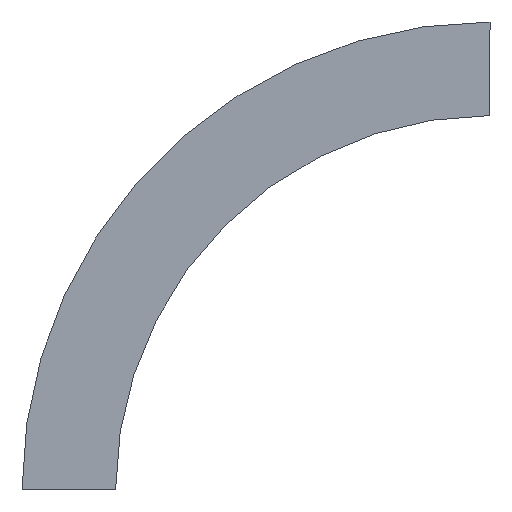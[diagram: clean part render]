
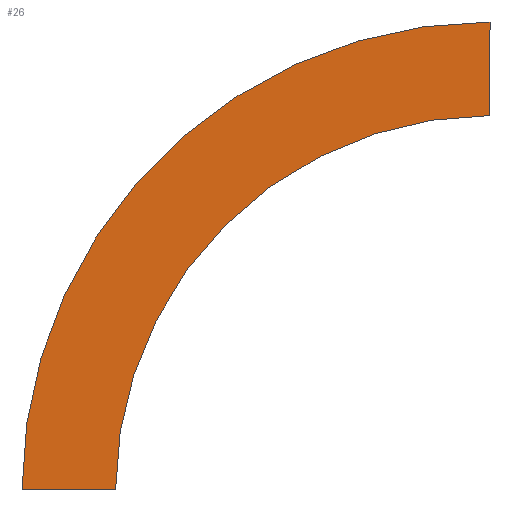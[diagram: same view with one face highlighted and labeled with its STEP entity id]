
A CAD part, left-side view. The second image highlights one B-rep face of the part: STEP entity #26.
In plain terms, the highlighted planar face has unit normal (-1, 0, 0) as drawn and (1, 0, 0) by its records, which use the part's own axes.
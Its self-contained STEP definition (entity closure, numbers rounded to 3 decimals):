
#16 = CIRCLE ( 'NONE', #89, 300. ) ;
#25 = CARTESIAN_POINT ( 'NONE',  ( 0., 0., 0. ) ) ;
#26 = ADVANCED_FACE ( 'NONE', ( #567 ), #209, .T. ) ;
#34 = DIRECTION ( 'NONE',  ( 0., 1., 0. ) ) ;
#44 = DIRECTION ( 'NONE',  ( 0., 1., 0. ) ) ;
#61 = EDGE_LOOP ( 'NONE', ( #500, #192, #82, #201 ) ) ;
#68 = DIRECTION ( 'NONE',  ( 0., 1., 0. ) ) ;
#76 = LINE ( 'NONE', #261, #156 ) ;
#82 = ORIENTED_EDGE ( 'NONE', *, *, #323, .F. ) ;
#89 = AXIS2_PLACEMENT_3D ( 'NONE', #539, #441, #34 ) ;
#94 = CARTESIAN_POINT ( 'NONE',  ( 0., -300., 375. ) ) ;
#98 = EDGE_CURVE ( 'NONE', #519, #377, #382, .T. ) ;
#109 = AXIS2_PLACEMENT_3D ( 'NONE', #25, #568, #565 ) ;
#112 = AXIS2_PLACEMENT_3D ( 'NONE', #247, #147, #44 ) ;
#147 = DIRECTION ( 'NONE',  ( 1., 0., 0. ) ) ;
#156 = VECTOR ( 'NONE', #175, 1000. ) ;
#175 = DIRECTION ( 'NONE',  ( 0., 0., 1. ) ) ;
#192 = ORIENTED_EDGE ( 'NONE', *, *, #302, .F. ) ;
#201 = ORIENTED_EDGE ( 'NONE', *, *, #98, .T. ) ;
#207 = EDGE_CURVE ( 'NONE', #377, #246, #387, .T. ) ;
#209 = PLANE ( 'NONE',  #109 ) ;
#246 = VERTEX_POINT ( 'NONE', #94 ) ;
#247 = CARTESIAN_POINT ( 'NONE',  ( 0., -300., 0. ) ) ;
#259 = VECTOR ( 'NONE', #68, 1000. ) ;
#261 = CARTESIAN_POINT ( 'NONE',  ( 0., -300., 300. ) ) ;
#302 = EDGE_CURVE ( 'NONE', #400, #246, #76, .T. ) ;
#323 = EDGE_CURVE ( 'NONE', #519, #400, #16, .T. ) ;
#340 = CARTESIAN_POINT ( 'NONE',  ( 0., 0., 0. ) ) ;
#377 = VERTEX_POINT ( 'NONE', #449 ) ;
#382 = LINE ( 'NONE', #340, #259 ) ;
#387 = CIRCLE ( 'NONE', #112, 375. ) ;
#397 = CARTESIAN_POINT ( 'NONE',  ( 0., -300., 300. ) ) ;
#400 = VERTEX_POINT ( 'NONE', #397 ) ;
#441 = DIRECTION ( 'NONE',  ( 1., 0., 0. ) ) ;
#449 = CARTESIAN_POINT ( 'NONE',  ( 0., 75., 0. ) ) ;
#485 = CARTESIAN_POINT ( 'NONE',  ( 0., 0., 0. ) ) ;
#500 = ORIENTED_EDGE ( 'NONE', *, *, #207, .T. ) ;
#519 = VERTEX_POINT ( 'NONE', #485 ) ;
#539 = CARTESIAN_POINT ( 'NONE',  ( 0., -300., 0. ) ) ;
#565 = DIRECTION ( 'NONE',  ( 0., 0., -1. ) ) ;
#567 = FACE_OUTER_BOUND ( 'NONE', #61, .T. ) ;
#568 = DIRECTION ( 'NONE',  ( 1., 0., 0. ) ) ;
